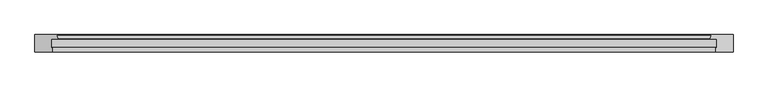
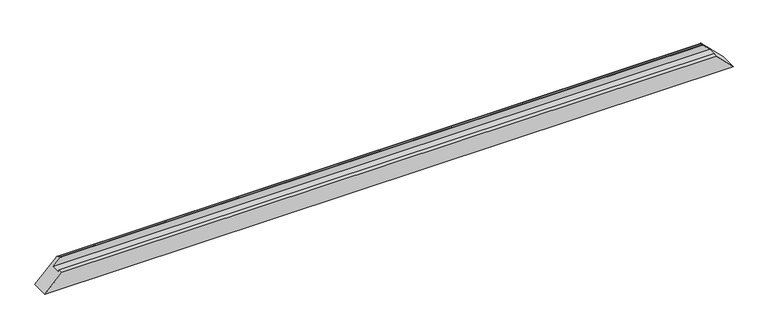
"""IFC4 building model written with IfcOpenShell, lengths in millimetres: proxy geometry, Weiku - Montante - Caixilho 02.2.01.005 : Weiku - Montante - Caixilho 02.2.01.005."""

from ifc_helpers import new_model, si_unit, frame, origin, place, context, project, spatial, ellipse_curve, source, transform, mapped, element, save
from ifc_brep_helpers import plane_surface, cylinder_surface, advanced_brep


def generic_models_37fdd183(model_context):
    return source(origin(), model_context, "Body", "AdvancedBrep", [
        advanced_brep(
        [(-951.0, -12.5, 46.0), (951.0, -12.5, 46.0), (930.8909676, -12.5, 66.1090324), (-930.8909676, -12.5, 66.1090324), (-951.0, -37.8314286, 46.0), (951.0, -37.8314286, 46.0), (-948.0, -37.027581, 49.0), (948.0, -37.027581, 49.0), (-948.0, -50.0, 49.0), (948.0, -50.0, 49.0), (997.0, -50.0, 0.0), (-997.0, -50.0, 0.0), (-997.0, 0.0, 0.0), (997.0, 0.0, 0.0), (-935.4997332, 0.0, 61.5002668), (935.4997332, 0.0, 61.5002668), (-930.118227, -11.4929448, 66.881773), (930.118227, -11.4929448, 66.881773), (932.6019557, -2.2235429, 64.3980443), (-932.6019557, -2.2235429, 64.3980443)],
        [
            (0, 1),
            (1, 2),
            (2, 3),
            (3, 0),
            (4, 5),
            (5, 1),
            (0, 4),
            (6, 7),
            (7, 5),
            (4, 6),
            (8, 9),
            (9, 7),
            (6, 8),
            (10, 9),
            (8, 11),
            (11, 10),
            (11, 12),
            (12, 13),
            (13, 10),
            (12, 14),
            (14, 15),
            (15, 13),
            (16, 17),
            (17, 18),
            (18, 19),
            (19, 16),
            (3, 16, ellipse_curve(frame((-930.8909676, -11.7, 66.1090324), z_axis=(-0.7071067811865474, 0.0, 0.7071067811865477), x_axis=(-0.7071067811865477, 0.0, -0.7071067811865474)), 1.1313708, 0.8)),
            (19, 14, ellipse_curve(frame((-935.4997332, -3.0, 61.5002668), z_axis=(-0.7071067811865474, 0.0, 0.7071067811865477), x_axis=(-0.7071067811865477, 0.0, -0.7071067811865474)), 4.2426407, 3.0)),
            (15, 18, ellipse_curve(frame((935.4997332, -3.0, 61.5002668), z_axis=(0.7071067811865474, 0.0, 0.7071067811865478), x_axis=(-0.7071067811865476, 0.0, 0.7071067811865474)), 4.2426407, 3.0)),
            (17, 2, ellipse_curve(frame((930.8909676, -11.7, 66.1090324), z_axis=(0.7071067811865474, 0.0, 0.7071067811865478), x_axis=(-0.7071067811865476, 0.0, 0.7071067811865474)), 1.1313708, 0.8)),
        ],
        [
            plane_surface(frame((-997.0, -12.5, 66.1090324), z_axis=(0.0, -1.0, 0.0), x_axis=(1.0, 0.0, 0.0))),
            plane_surface(frame((-997.0, -12.5, 46.0), z_axis=(0.0, 0.0, 1.0), x_axis=(1.0, 0.0, 0.0))),
            plane_surface(frame((-997.0, -37.8314286, 46.0), z_axis=(0.0, 0.9659258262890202, -0.2588190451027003), x_axis=(1.0, 0.0, 0.0))),
            plane_surface(frame((-997.0, -37.027581, 49.0), z_axis=(0.0, 0.0, 1.0), x_axis=(1.0, 0.0, 0.0))),
            plane_surface(frame((-997.0, -50.0, 49.0), z_axis=(0.0, -1.0, 0.0), x_axis=(1.0, 0.0, 0.0))),
            plane_surface(frame((-997.0, -50.0, 0.0), z_axis=(0.0, 0.0, -1.0), x_axis=(1.0, 0.0, 0.0))),
            plane_surface(frame((-997.0, 0.0, 0.0), z_axis=(0.0, 1.0, 0.0), x_axis=(1.0, 0.0, 0.0))),
            plane_surface(frame((-997.0, -2.2235429, 64.3980443), z_axis=(0.0, 0.2588190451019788, 0.9659258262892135), x_axis=(1.0, 0.0, 0.0))),
            plane_surface(frame((-1067.0, 15.0, -70.0), z_axis=(-0.7071067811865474, 0.0, 0.7071067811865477), x_axis=(0.0, -1.0, 0.0))),
            plane_surface(frame((927.0, 15.0, 70.0), z_axis=(0.7071067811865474, 0.0, 0.7071067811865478), x_axis=(0.0, -1.0, 0.0))),
            cylinder_surface(frame((-997.0, -11.7, 66.1090324), z_axis=(-1.0, 0.0, 0.0), x_axis=(0.0, -1.0, 0.0)), 0.8),
            cylinder_surface(frame((-997.0, -3.0, 61.5002668), z_axis=(-1.0, 0.0, 0.0), x_axis=(0.0, -1.0, 0.0)), 3.0),
        ],
        [
            (0, [[1, 2, 3, 4]]),
            (1, [[5, 6, -1, 7]]),
            (2, [[8, 9, -5, 10]]),
            (3, [[11, 12, -8, 13]]),
            (4, [[14, -11, 15, 16]]),
            (5, [[17, 18, 19, -16]]),
            (6, [[20, 21, 22, -18]]),
            (7, [[23, 24, 25, 26]]),
            (8, [[27, -26, 28, -20, -17, -15, -13, -10, -7, -4]]),
            (9, [[-6, -9, -12, -14, -19, -22, 29, -24, 30, -2]]),
            (10, [[-3, -30, -23, -27]]),
            (11, [[-25, -29, -21, -28]]),
        ],
    ),
    ])


if __name__ == "__main__":
    model = new_model("IFC4")
    model_context = context("Model", 3, world=origin())
    ifc_project = project(units=[si_unit("LENGTHUNIT", "METRE", prefix="MILLI")], contexts=[model_context])
    site = spatial("IfcSite", under=ifc_project)
    building = spatial("IfcBuilding", under=site)
    placement = place(None, origin())
    generic_models_shape = generic_models_37fdd183(model_context)
    element("IfcBuildingElementProxy", 1, Name="Weiku - Montante - Caixilho 02.2.01.005 : Weiku - Montante - Caixilho 02.2.01.005", ObjectType="Weiku - Montante - Caixilho 02.2.01.005 : Weiku - Montante - Caixilho 02.2.01.005", at=placement, inside=building, context=model_context, shape_type="MappedRepresentation", body=[
        mapped(generic_models_shape, transform((0.0, 0.0, 0.0), x_axis=(1.0, 0.0, 0.0), y_axis=(0.0, 1.0, 0.0), z_axis=(0.0, 0.0, 1.0))),
    ])
    save(model, "model.ifc")
